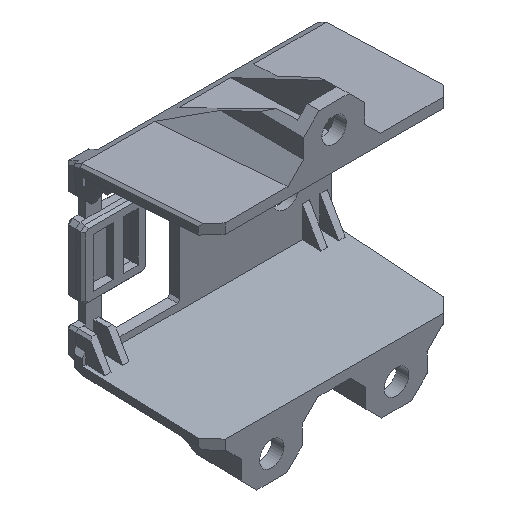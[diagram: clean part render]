
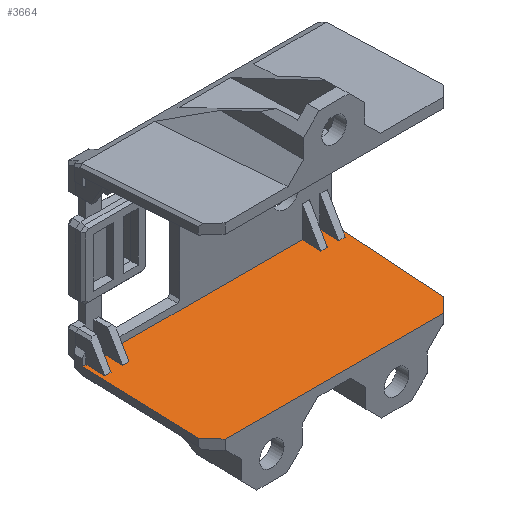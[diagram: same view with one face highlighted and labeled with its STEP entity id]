
A CAD part, isometric view. The second image highlights one B-rep face of the part: STEP entity #3664.
In plain terms, the highlighted planar face has unit normal (0, -0.052, 0.999).
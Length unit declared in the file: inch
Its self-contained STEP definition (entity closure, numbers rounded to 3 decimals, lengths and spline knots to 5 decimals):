
#71=PLANE('',#3887);
#272=FACE_OUTER_BOUND('',#472,.T.);
#472=EDGE_LOOP('',(#2847,#2848,#2849,#2850,#2851,#2852,#2853,#2854,#2855,
#2856,#2857,#2858,#2859,#2860,#2861,#2862,#2863,#2864,#2865,#2866,#2867,
#2868));
#654=LINE('',#5059,#1174);
#658=LINE('',#5068,#1178);
#737=LINE('',#5228,#1257);
#771=LINE('',#5298,#1291);
#776=LINE('',#5306,#1296);
#785=LINE('',#5327,#1305);
#792=LINE('',#5340,#1312);
#800=LINE('',#5357,#1320);
#844=LINE('',#5443,#1364);
#847=LINE('',#5448,#1367);
#850=LINE('',#5452,#1370);
#857=LINE('',#5462,#1377);
#858=LINE('',#5463,#1378);
#859=LINE('',#5464,#1379);
#860=LINE('',#5465,#1380);
#861=LINE('',#5466,#1381);
#862=LINE('',#5467,#1382);
#863=LINE('',#5468,#1383);
#864=LINE('',#5470,#1384);
#865=LINE('',#5472,#1385);
#866=LINE('',#5473,#1386);
#867=LINE('',#5474,#1387);
#1174=VECTOR('',#4113,39.37008);
#1178=VECTOR('',#4119,39.37008);
#1257=VECTOR('',#4226,39.37008);
#1291=VECTOR('',#4274,39.37008);
#1296=VECTOR('',#4281,39.37008);
#1305=VECTOR('',#4296,39.37008);
#1312=VECTOR('',#4307,39.37008);
#1320=VECTOR('',#4317,39.37008);
#1364=VECTOR('',#4371,39.37008);
#1367=VECTOR('',#4374,39.37008);
#1370=VECTOR('',#4377,39.37008);
#1377=VECTOR('',#4386,39.37008);
#1378=VECTOR('',#4387,39.37008);
#1379=VECTOR('',#4388,39.37008);
#1380=VECTOR('',#4389,39.37008);
#1381=VECTOR('',#4390,39.37008);
#1382=VECTOR('',#4391,39.37008);
#1383=VECTOR('',#4392,39.37008);
#1384=VECTOR('',#4393,39.37008);
#1385=VECTOR('',#4394,39.37008);
#1386=VECTOR('',#4395,39.37008);
#1387=VECTOR('',#4396,39.37008);
#1711=VERTEX_POINT('',#5057);
#1712=VERTEX_POINT('',#5058);
#1715=VERTEX_POINT('',#5066);
#1716=VERTEX_POINT('',#5067);
#1783=VERTEX_POINT('',#5226);
#1811=VERTEX_POINT('',#5295);
#1812=VERTEX_POINT('',#5297);
#1822=VERTEX_POINT('',#5324);
#1823=VERTEX_POINT('',#5326);
#1826=VERTEX_POINT('',#5337);
#1827=VERTEX_POINT('',#5339);
#1834=VERTEX_POINT('',#5354);
#1835=VERTEX_POINT('',#5356);
#1871=VERTEX_POINT('',#5440);
#1872=VERTEX_POINT('',#5442);
#1873=VERTEX_POINT('',#5445);
#1874=VERTEX_POINT('',#5447);
#1875=VERTEX_POINT('',#5450);
#1876=VERTEX_POINT('',#5460);
#1877=VERTEX_POINT('',#5461);
#1878=VERTEX_POINT('',#5469);
#1879=VERTEX_POINT('',#5471);
#2055=EDGE_CURVE('',#1711,#1712,#654,.T.);
#2059=EDGE_CURVE('',#1715,#1716,#658,.T.);
#2138=EDGE_CURVE('',#1783,#1716,#737,.T.);
#2172=EDGE_CURVE('',#1812,#1811,#771,.T.);
#2177=EDGE_CURVE('',#1783,#1812,#776,.T.);
#2186=EDGE_CURVE('',#1823,#1822,#785,.T.);
#2193=EDGE_CURVE('',#1827,#1826,#792,.T.);
#2201=EDGE_CURVE('',#1834,#1835,#800,.T.);
#2245=EDGE_CURVE('',#1871,#1872,#844,.T.);
#2248=EDGE_CURVE('',#1873,#1874,#847,.T.);
#2251=EDGE_CURVE('',#1875,#1834,#850,.T.);
#2258=EDGE_CURVE('',#1876,#1877,#857,.T.);
#2259=EDGE_CURVE('',#1876,#1835,#858,.T.);
#2260=EDGE_CURVE('',#1823,#1875,#859,.T.);
#2261=EDGE_CURVE('',#1822,#1874,#860,.T.);
#2262=EDGE_CURVE('',#1873,#1711,#861,.T.);
#2263=EDGE_CURVE('',#1712,#1872,#862,.T.);
#2264=EDGE_CURVE('',#1827,#1871,#863,.T.);
#2265=EDGE_CURVE('',#1826,#1878,#864,.T.);
#2266=EDGE_CURVE('',#1879,#1878,#865,.T.);
#2267=EDGE_CURVE('',#1879,#1715,#866,.T.);
#2268=EDGE_CURVE('',#1811,#1877,#867,.T.);
#2847=ORIENTED_EDGE('',*,*,#2258,.F.);
#2848=ORIENTED_EDGE('',*,*,#2259,.T.);
#2849=ORIENTED_EDGE('',*,*,#2201,.F.);
#2850=ORIENTED_EDGE('',*,*,#2251,.F.);
#2851=ORIENTED_EDGE('',*,*,#2260,.F.);
#2852=ORIENTED_EDGE('',*,*,#2186,.T.);
#2853=ORIENTED_EDGE('',*,*,#2261,.T.);
#2854=ORIENTED_EDGE('',*,*,#2248,.F.);
#2855=ORIENTED_EDGE('',*,*,#2262,.T.);
#2856=ORIENTED_EDGE('',*,*,#2055,.T.);
#2857=ORIENTED_EDGE('',*,*,#2263,.T.);
#2858=ORIENTED_EDGE('',*,*,#2245,.F.);
#2859=ORIENTED_EDGE('',*,*,#2264,.F.);
#2860=ORIENTED_EDGE('',*,*,#2193,.T.);
#2861=ORIENTED_EDGE('',*,*,#2265,.T.);
#2862=ORIENTED_EDGE('',*,*,#2266,.F.);
#2863=ORIENTED_EDGE('',*,*,#2267,.T.);
#2864=ORIENTED_EDGE('',*,*,#2059,.T.);
#2865=ORIENTED_EDGE('',*,*,#2138,.F.);
#2866=ORIENTED_EDGE('',*,*,#2177,.T.);
#2867=ORIENTED_EDGE('',*,*,#2172,.T.);
#2868=ORIENTED_EDGE('',*,*,#2268,.T.);
#3664=ADVANCED_FACE('',(#272),#71,.F.);
#3887=AXIS2_PLACEMENT_3D('',#5459,#4384,#4385);
#4113=DIRECTION('',(-1.,0.,0.));
#4119=DIRECTION('',(-1.,0.,0.));
#4226=DIRECTION('',(0.017,-0.998,-0.052));
#4274=DIRECTION('',(0.017,-0.998,-0.052));
#4281=DIRECTION('',(-1.,0.,0.));
#4296=DIRECTION('',(-1.,0.,0.));
#4307=DIRECTION('',(-1.,0.,0.));
#4317=DIRECTION('',(-0.017,-0.998,-0.052));
#4371=DIRECTION('',(1.,0.,0.));
#4374=DIRECTION('',(1.,0.,0.));
#4377=DIRECTION('',(1.,0.,0.));
#4384=DIRECTION('center_axis',(0.,0.052,-0.999));
#4385=DIRECTION('ref_axis',(0.,0.999,0.052));
#4386=DIRECTION('',(-1.,0.,0.));
#4387=DIRECTION('',(0.707,0.707,0.037));
#4388=DIRECTION('',(0.017,0.998,0.052));
#4389=DIRECTION('',(-0.017,0.998,0.052));
#4390=DIRECTION('',(-0.017,-0.998,-0.052));
#4391=DIRECTION('',(-0.017,0.998,0.052));
#4392=DIRECTION('',(0.017,0.998,0.052));
#4393=DIRECTION('',(-0.017,0.998,0.052));
#4394=DIRECTION('',(1.,0.,0.));
#4395=DIRECTION('',(-0.017,-0.998,-0.052));
#4396=DIRECTION('',(0.707,-0.707,-0.037));
#5057=CARTESIAN_POINT('',(0.82211,0.85647,-0.66565));
#5058=CARTESIAN_POINT('',(0.76957,0.85647,-0.66565));
#5059=CARTESIAN_POINT('',(1.,0.85647,-0.66565));
#5066=CARTESIAN_POINT('',(-0.91364,0.85647,-0.66565));
#5067=CARTESIAN_POINT('',(-0.9648,0.85647,-0.66565));
#5068=CARTESIAN_POINT('',(1.,0.85647,-0.66565));
#5226=CARTESIAN_POINT('',(-0.96738,1.00394,-0.65792));
#5228=CARTESIAN_POINT('',(-0.9642,0.82228,-0.66744));
#5295=CARTESIAN_POINT('',(-0.98264,0.08795,-0.70593));
#5297=CARTESIAN_POINT('',(-0.99863,1.00394,-0.65792));
#5298=CARTESIAN_POINT('',(-1.00124,1.15379,-0.65007));
#5306=CARTESIAN_POINT('',(-0.96875,1.00394,-0.65792));
#5324=CARTESIAN_POINT('',(0.91227,0.85647,-0.66565));
#5326=CARTESIAN_POINT('',(0.9648,0.85647,-0.66565));
#5327=CARTESIAN_POINT('',(1.,0.85647,-0.66565));
#5337=CARTESIAN_POINT('',(-0.82073,0.85647,-0.66565));
#5339=CARTESIAN_POINT('',(-0.76957,0.85647,-0.66565));
#5340=CARTESIAN_POINT('',(1.,0.85647,-0.66565));
#5354=CARTESIAN_POINT('',(0.99863,1.00394,-0.65792));
#5356=CARTESIAN_POINT('',(0.98264,0.08795,-0.70593));
#5357=CARTESIAN_POINT('',(1.00124,1.15379,-0.65007));
#5440=CARTESIAN_POINT('',(-0.767,1.00394,-0.65792));
#5442=CARTESIAN_POINT('',(0.767,1.00394,-0.65792));
#5443=CARTESIAN_POINT('',(-0.76563,1.00394,-0.65792));
#5445=CARTESIAN_POINT('',(0.82468,1.00394,-0.65792));
#5447=CARTESIAN_POINT('',(0.90969,1.00394,-0.65792));
#5448=CARTESIAN_POINT('',(0.82468,1.00394,-0.65792));
#5450=CARTESIAN_POINT('',(0.96738,1.00394,-0.65792));
#5452=CARTESIAN_POINT('',(0.96875,1.00394,-0.65792));
#5459=CARTESIAN_POINT('Origin',(1.,0.85647,-0.66565));
#5460=CARTESIAN_POINT('',(0.875,-0.01969,-0.71157));
#5461=CARTESIAN_POINT('',(-0.875,-0.01969,-0.71157));
#5462=CARTESIAN_POINT('',(1.,-0.01969,-0.71157));
#5463=CARTESIAN_POINT('',(1.01845,0.12376,-0.70405));
#5464=CARTESIAN_POINT('',(0.96999,1.15379,-0.65007));
#5465=CARTESIAN_POINT('',(0.90947,1.01688,-0.65725));
#5466=CARTESIAN_POINT('',(0.82491,1.01688,-0.65725));
#5467=CARTESIAN_POINT('',(0.76438,1.15379,-0.65007));
#5468=CARTESIAN_POINT('',(-0.76438,1.15379,-0.65007));
#5469=CARTESIAN_POINT('',(-0.82331,1.00394,-0.65792));
#5470=CARTESIAN_POINT('',(-0.82463,1.07988,-0.65394));
#5471=CARTESIAN_POINT('',(-0.91107,1.00394,-0.65792));
#5472=CARTESIAN_POINT('',(-0.90969,1.00394,-0.65792));
#5473=CARTESIAN_POINT('',(-0.90974,1.07988,-0.65394));
#5474=CARTESIAN_POINT('',(-0.86242,-0.03227,-0.71223));
